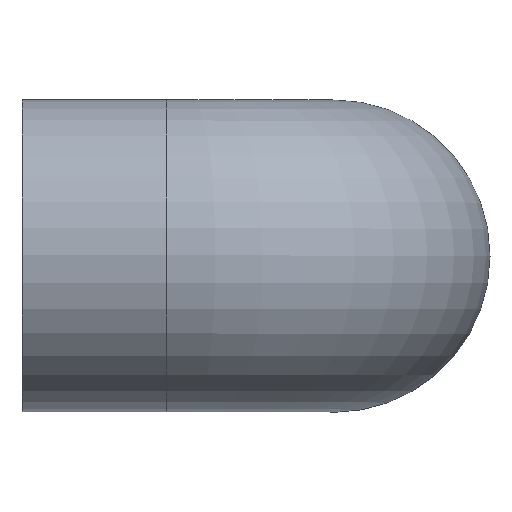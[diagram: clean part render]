
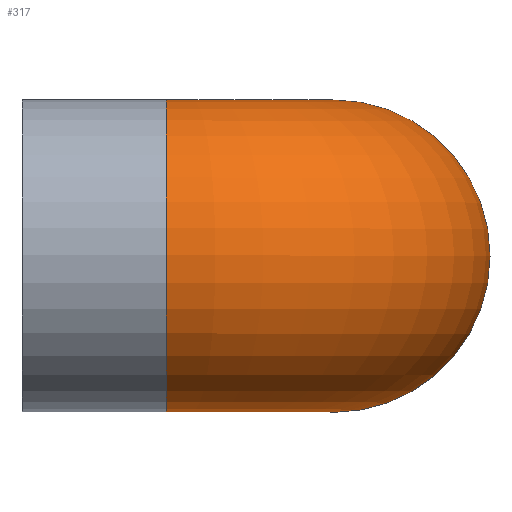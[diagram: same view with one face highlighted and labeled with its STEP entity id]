
A CAD part, top view. The second image highlights one B-rep face of the part: STEP entity #317.
In plain terms, the highlighted toroidal (fillet/blend) face has major radius 14.5 mm and minor radius 13.5 mm.
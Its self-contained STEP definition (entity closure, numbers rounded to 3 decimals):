
#19=FACE_BOUND('',#92,.T.);
#24=TOROIDAL_SURFACE('',#343,14.5,13.5);
#65=FACE_OUTER_BOUND('',#91,.T.);
#91=EDGE_LOOP('',(#273));
#92=EDGE_LOOP('',(#274));
#110=CIRCLE('',#342,13.5);
#111=CIRCLE('',#344,13.5);
#160=VERTEX_POINT('',#7260);
#161=VERTEX_POINT('',#7263);
#202=EDGE_CURVE('',#160,#160,#110,.T.);
#203=EDGE_CURVE('',#161,#161,#111,.T.);
#273=ORIENTED_EDGE('',*,*,#202,.F.);
#274=ORIENTED_EDGE('',*,*,#203,.T.);
#317=ADVANCED_FACE('',(#65,#19),#24,.T.);
#342=AXIS2_PLACEMENT_3D('',#7261,#395,#396);
#343=AXIS2_PLACEMENT_3D('',#7262,#397,#398);
#344=AXIS2_PLACEMENT_3D('',#7264,#399,#400);
#395=DIRECTION('center_axis',(-1.,0.,0.));
#396=DIRECTION('ref_axis',(0.,0.,-1.));
#397=DIRECTION('center_axis',(0.,-1.,0.));
#398=DIRECTION('ref_axis',(0.,0.,-1.));
#399=DIRECTION('center_axis',(0.,0.,1.));
#400=DIRECTION('ref_axis',(-1.,0.,0.));
#7260=CARTESIAN_POINT('',(-14.5,0.,40.5));
#7261=CARTESIAN_POINT('Origin',(-14.5,0.,27.));
#7262=CARTESIAN_POINT('Origin',(-14.5,0.,12.5));
#7263=CARTESIAN_POINT('',(13.5,0.,12.5));
#7264=CARTESIAN_POINT('Origin',(0.,0.,12.5));
